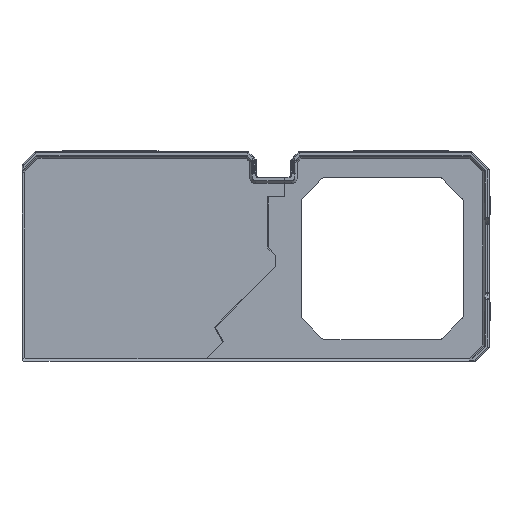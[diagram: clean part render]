
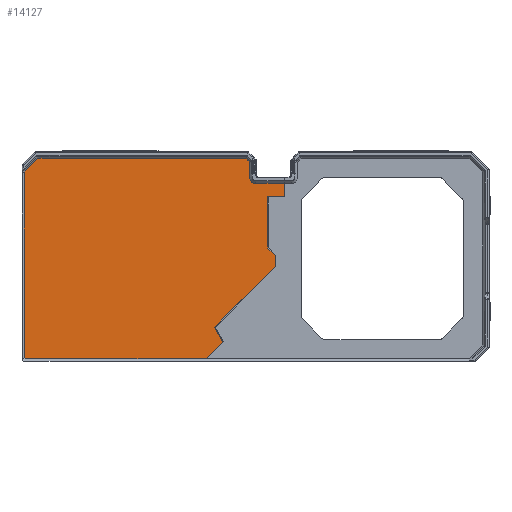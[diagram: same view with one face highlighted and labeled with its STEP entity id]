
A CAD part, top view. The second image highlights one B-rep face of the part: STEP entity #14127.
In plain terms, the highlighted planar face has unit normal (0, 0, 1).
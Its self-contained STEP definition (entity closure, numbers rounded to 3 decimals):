
#165=DIRECTION('',(0.,1.,0.));
#166=VECTOR('',#165,6.898);
#167=CARTESIAN_POINT('',(140.5,88.325,-4.));
#168=LINE('',#167,#166);
#229=DIRECTION('',(0.707,0.707,0.));
#230=VECTOR('',#229,12.708);
#231=CARTESIAN_POINT('',(98.613,1.217,-4.));
#232=LINE('',#231,#230);
#3301=DIRECTION('',(0.,-1.,0.));
#3302=VECTOR('',#3301,27.692);
#3303=CARTESIAN_POINT('',(131.7,88.325,-4.));
#3304=LINE('',#3303,#3302);
#3305=DIRECTION('',(0.707,-0.707,0.));
#3306=VECTOR('',#3305,5.657);
#3307=CARTESIAN_POINT('',(131.7,60.633,-4.));
#3308=LINE('',#3307,#3306);
#3309=DIRECTION('',(0.,-1.,0.));
#3310=VECTOR('',#3309,5.884);
#3311=CARTESIAN_POINT('',(135.7,56.633,-4.));
#3312=LINE('',#3311,#3310);
#3313=DIRECTION('',(-0.707,-0.707,0.));
#3314=VECTOR('',#3313,45.91);
#3315=CARTESIAN_POINT('',(135.7,50.749,-4.));
#3316=LINE('',#3315,#3314);
#3317=DIRECTION('',(0.475,-0.88,0.));
#3318=VECTOR('',#3317,9.185);
#3319=CARTESIAN_POINT('',(103.237,18.286,-4.));
#3320=LINE('',#3319,#3318);
#3321=CARTESIAN_POINT('',(1.217,2.066,-4.));
#3322=CARTESIAN_POINT('',(1.217,1.783,-4.));
#3323=CARTESIAN_POINT('',(1.389,1.389,-4.));
#3324=CARTESIAN_POINT('',(1.783,1.217,-4.));
#3325=CARTESIAN_POINT('',(2.066,1.217,-4.));
#3327=DIRECTION('',(0.,-1.,0.));
#3328=VECTOR('',#3327,98.83);
#3329=CARTESIAN_POINT('',(1.217,100.896,-4.));
#3330=LINE('',#3329,#3328);
#3331=CARTESIAN_POINT('',(1.641,101.92,-4.));
#3332=CARTESIAN_POINT('',(1.359,101.637,-4.));
#3333=CARTESIAN_POINT('',(1.217,101.296,-4.));
#3334=CARTESIAN_POINT('',(1.217,100.896,-4.));
#3336=DIRECTION('',(-0.707,-0.707,0.));
#3337=VECTOR('',#3336,9.106);
#3338=CARTESIAN_POINT('',(8.08,108.359,-4.));
#3339=LINE('',#3338,#3337);
#3340=CARTESIAN_POINT('',(9.104,108.783,-4.));
#3341=CARTESIAN_POINT('',(8.704,108.783,-4.));
#3342=CARTESIAN_POINT('',(8.363,108.641,-4.));
#3343=CARTESIAN_POINT('',(8.08,108.359,-4.));
#3345=DIRECTION('',(-1.,0.,0.));
#3346=VECTOR('',#3345,110.042);
#3347=CARTESIAN_POINT('',(119.146,108.783,-4.));
#3348=LINE('',#3347,#3346);
#3349=CARTESIAN_POINT('',(120.17,108.359,-4.));
#3350=CARTESIAN_POINT('',(119.887,108.641,-4.));
#3351=CARTESIAN_POINT('',(119.546,108.783,-4.));
#3352=CARTESIAN_POINT('',(119.146,108.783,-4.));
#3354=CARTESIAN_POINT('',(122.033,105.954,-4.));
#3355=CARTESIAN_POINT('',(122.033,106.315,-4.));
#3356=CARTESIAN_POINT('',(121.905,106.624,-4.));
#3357=CARTESIAN_POINT('',(121.65,106.879,-4.));
#3359=CARTESIAN_POINT('',(125.25,98.44,-4.));
#3360=DIRECTION('',(0.,0.,-1.));
#3361=DIRECTION('',(0.,-1.,0.));
#3362=AXIS2_PLACEMENT_3D('',#3359,#3360,#3361);
#3364=DIRECTION('',(-1.,0.,0.));
#3365=VECTOR('',#3364,15.25);
#3366=CARTESIAN_POINT('',(140.5,95.223,-4.));
#3367=LINE('',#3366,#3365);
#3368=DIRECTION('',(-1.,0.,0.));
#3369=VECTOR('',#3368,8.8);
#3370=CARTESIAN_POINT('',(140.5,88.325,-4.));
#3371=LINE('',#3370,#3369);
#3392=DIRECTION('',(-1.,0.,0.));
#3393=VECTOR('',#3392,96.547);
#3394=CARTESIAN_POINT('',(98.613,1.217,-4.));
#3395=LINE('',#3394,#3393);
#5512=DIRECTION('',(-0.707,0.707,0.));
#5513=VECTOR('',#5512,2.093);
#5514=CARTESIAN_POINT('',(121.65,106.879,-4.));
#5515=LINE('',#5514,#5513);
#5537=DIRECTION('',(0.,1.,0.));
#5538=VECTOR('',#5537,7.514);
#5539=CARTESIAN_POINT('',(122.033,98.44,-4.));
#5540=LINE('',#5539,#5538);
#7455=VERTEX_POINT('',#3349);
#7456=VERTEX_POINT('',#3352);
#7457=CARTESIAN_POINT('',(9.104,108.783,-4.));
#7458=VERTEX_POINT('',#7457);
#7459=VERTEX_POINT('',#3343);
#7460=CARTESIAN_POINT('',(1.641,101.92,-4.));
#7461=VERTEX_POINT('',#7460);
#7462=VERTEX_POINT('',#3334);
#7463=CARTESIAN_POINT('',(1.217,2.066,-4.));
#7464=VERTEX_POINT('',#7463);
#7465=VERTEX_POINT('',#3325);
#7473=CARTESIAN_POINT('',(125.25,95.223,-4.));
#7474=CARTESIAN_POINT('',(122.033,98.44,-4.));
#7475=VERTEX_POINT('',#7473);
#7476=VERTEX_POINT('',#7474);
#7477=CARTESIAN_POINT('',(122.033,105.954,-4.));
#7479=VERTEX_POINT('',#7477);
#7481=VERTEX_POINT('',#3357);
#9355=CARTESIAN_POINT('',(98.613,1.217,-4.));
#9356=VERTEX_POINT('',#9355);
#9359=CARTESIAN_POINT('',(140.5,95.223,-4.));
#9360=VERTEX_POINT('',#9359);
#9432=CARTESIAN_POINT('',(131.7,88.325,-4.));
#9433=CARTESIAN_POINT('',(131.7,60.633,-4.));
#9434=VERTEX_POINT('',#9432);
#9435=VERTEX_POINT('',#9433);
#9436=CARTESIAN_POINT('',(135.7,56.633,-4.));
#9437=VERTEX_POINT('',#9436);
#9438=CARTESIAN_POINT('',(135.7,50.749,-4.));
#9439=VERTEX_POINT('',#9438);
#9440=CARTESIAN_POINT('',(103.237,18.286,-4.));
#9441=VERTEX_POINT('',#9440);
#9442=CARTESIAN_POINT('',(107.599,10.203,-4.));
#9443=VERTEX_POINT('',#9442);
#9444=CARTESIAN_POINT('',(140.5,88.325,-4.));
#9445=VERTEX_POINT('',#9444);
#14081=CARTESIAN_POINT('',(0.,0.,-4.));
#14082=DIRECTION('',(0.,0.,1.));
#14083=DIRECTION('',(1.,0.,0.));
#14084=AXIS2_PLACEMENT_3D('',#14081,#14082,#14083);
#14085=PLANE('',#14084);
#14087=ORIENTED_EDGE('',*,*,#14086,.T.);
#14089=ORIENTED_EDGE('',*,*,#14088,.T.);
#14091=ORIENTED_EDGE('',*,*,#14090,.T.);
#14093=ORIENTED_EDGE('',*,*,#14092,.T.);
#14095=ORIENTED_EDGE('',*,*,#14094,.T.);
#14096=ORIENTED_EDGE('',*,*,#9729,.F.);
#14098=ORIENTED_EDGE('',*,*,#14097,.T.);
#14100=ORIENTED_EDGE('',*,*,#14099,.F.);
#14102=ORIENTED_EDGE('',*,*,#14101,.F.);
#14104=ORIENTED_EDGE('',*,*,#14103,.F.);
#14106=ORIENTED_EDGE('',*,*,#14105,.F.);
#14108=ORIENTED_EDGE('',*,*,#14107,.F.);
#14110=ORIENTED_EDGE('',*,*,#14109,.F.);
#14112=ORIENTED_EDGE('',*,*,#14111,.F.);
#14114=ORIENTED_EDGE('',*,*,#14113,.F.);
#14116=ORIENTED_EDGE('',*,*,#14115,.F.);
#14118=ORIENTED_EDGE('',*,*,#14117,.F.);
#14120=ORIENTED_EDGE('',*,*,#14119,.F.);
#14121=ORIENTED_EDGE('',*,*,#14074,.F.);
#14122=ORIENTED_EDGE('',*,*,#9612,.F.);
#14124=ORIENTED_EDGE('',*,*,#14123,.T.);
#14125=EDGE_LOOP('',(#14087,#14089,#14091,#14093,#14095,#14096,#14098,#14100,
#14102,#14104,#14106,#14108,#14110,#14112,#14114,#14116,#14118,#14120,#14121,
#14122,#14124));
#14126=FACE_OUTER_BOUND('',#14125,.F.);
#14127=ADVANCED_FACE('',(#14126),#14085,.T.);
#3326=B_SPLINE_CURVE_WITH_KNOTS('',3,(#3321,#3322,#3323,#3324,#3325),
.UNSPECIFIED.,.F.,.F.,(4,1,4),(0.,0.5,1.),.UNSPECIFIED.);
#3335=B_SPLINE_CURVE_WITH_KNOTS('',3,(#3331,#3332,#3333,#3334),.UNSPECIFIED.,
.F.,.F.,(4,4),(0.,1.),.UNSPECIFIED.);
#3344=B_SPLINE_CURVE_WITH_KNOTS('',3,(#3340,#3341,#3342,#3343),.UNSPECIFIED.,
.F.,.F.,(4,4),(0.,1.),.UNSPECIFIED.);
#3353=B_SPLINE_CURVE_WITH_KNOTS('',3,(#3349,#3350,#3351,#3352),.UNSPECIFIED.,
.F.,.F.,(4,4),(0.,1.),.UNSPECIFIED.);
#3358=B_SPLINE_CURVE_WITH_KNOTS('',3,(#3354,#3355,#3356,#3357),.UNSPECIFIED.,
.F.,.F.,(4,4),(0.,1.),.UNSPECIFIED.);
#3363=CIRCLE('',#3362,3.217);
#9612=EDGE_CURVE('',#9445,#9360,#168,.T.);
#9729=EDGE_CURVE('',#9356,#9443,#232,.T.);
#14074=EDGE_CURVE('',#9360,#7475,#3367,.T.);
#14086=EDGE_CURVE('',#9434,#9435,#3304,.T.);
#14088=EDGE_CURVE('',#9435,#9437,#3308,.T.);
#14090=EDGE_CURVE('',#9437,#9439,#3312,.T.);
#14092=EDGE_CURVE('',#9439,#9441,#3316,.T.);
#14094=EDGE_CURVE('',#9441,#9443,#3320,.T.);
#14097=EDGE_CURVE('',#9356,#7465,#3395,.T.);
#14099=EDGE_CURVE('',#7464,#7465,#3326,.T.);
#14101=EDGE_CURVE('',#7462,#7464,#3330,.T.);
#14103=EDGE_CURVE('',#7461,#7462,#3335,.T.);
#14105=EDGE_CURVE('',#7459,#7461,#3339,.T.);
#14107=EDGE_CURVE('',#7458,#7459,#3344,.T.);
#14109=EDGE_CURVE('',#7456,#7458,#3348,.T.);
#14111=EDGE_CURVE('',#7455,#7456,#3353,.T.);
#14113=EDGE_CURVE('',#7481,#7455,#5515,.T.);
#14115=EDGE_CURVE('',#7479,#7481,#3358,.T.);
#14117=EDGE_CURVE('',#7476,#7479,#5540,.T.);
#14119=EDGE_CURVE('',#7475,#7476,#3363,.T.);
#14123=EDGE_CURVE('',#9445,#9434,#3371,.T.);
